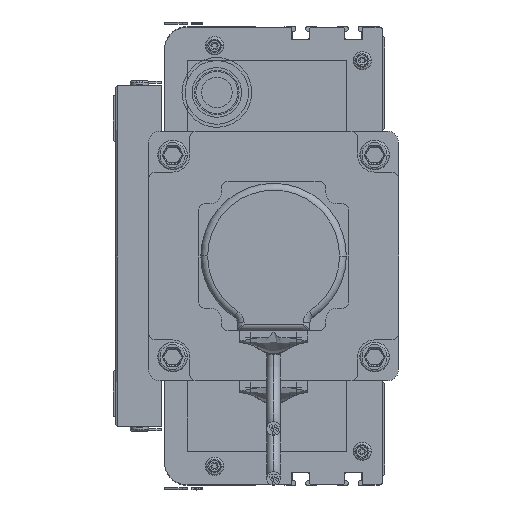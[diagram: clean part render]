
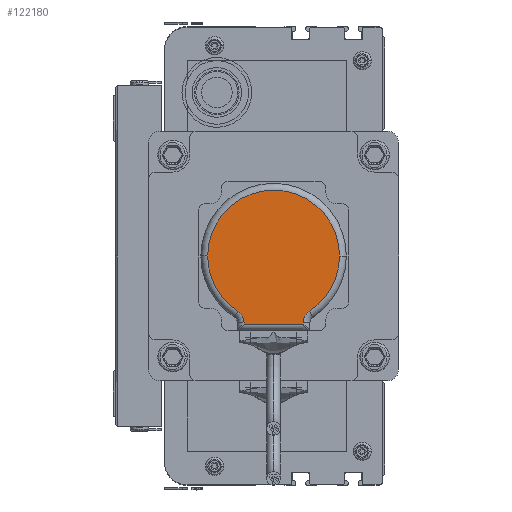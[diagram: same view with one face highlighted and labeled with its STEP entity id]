
A CAD part, left-side view. The second image highlights one B-rep face of the part: STEP entity #122180.
In plain terms, the highlighted planar face has unit normal (-1, 0, 0) as drawn and (0, 0, 1) by its records, which use the part's own axes.
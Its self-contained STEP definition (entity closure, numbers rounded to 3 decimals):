
#643 = VERTEX_POINT ( 'NONE', #3121 ) ;
#658 = EDGE_CURVE ( 'NONE', #832, #148664, #3113, .T. ) ;
#813 = EDGE_CURVE ( 'NONE', #148664, #643, #3307, .T. ) ;
#832 = VERTEX_POINT ( 'NONE', #3372 ) ;
#3113 = CIRCLE ( 'NONE', #3115, 29. ) ;
#3115 = AXIS2_PLACEMENT_3D ( 'NONE', #3186, #3184, #3182 ) ;
#3121 = CARTESIAN_POINT ( 'NONE',  ( 62., 33., 25. ) ) ;
#3182 = DIRECTION ( 'NONE',  ( 1., 0., 0. ) ) ;
#3184 = DIRECTION ( 'NONE',  ( 0., 0., 1. ) ) ;
#3186 = CARTESIAN_POINT ( 'NONE',  ( 33., 33., 25. ) ) ;
#3233 = CARTESIAN_POINT ( 'NONE',  ( 33., 33., 25. ) ) ;
#3307 = CIRCLE ( 'NONE', #3336, 29. ) ;
#3336 = AXIS2_PLACEMENT_3D ( 'NONE', #3233, #3389, #3388 ) ;
#3372 = CARTESIAN_POINT ( 'NONE',  ( 17.257, 57.355, 25. ) ) ;
#3388 = DIRECTION ( 'NONE',  ( 1., 0., 0. ) ) ;
#3389 = DIRECTION ( 'NONE',  ( 0., 0., 1. ) ) ;
#111902 = CARTESIAN_POINT ( 'NONE',  ( 4., 33., 25. ) ) ;
#121377 = DIRECTION ( 'NONE',  ( 0., 1., 0. ) ) ;
#121378 = VECTOR ( 'NONE', #121377, 1000. ) ;
#121379 = CARTESIAN_POINT ( 'NONE',  ( 46., 33., 25. ) ) ;
#121380 = LINE ( 'NONE', #121379, #121378 ) ;
#121421 = CIRCLE ( 'NONE', #121476, 29. ) ;
#121426 = CIRCLE ( 'NONE', #121481, 6. ) ;
#121428 = AXIS2_PLACEMENT_3D ( 'NONE', #121477, #121470, #121469 ) ;
#121432 = DIRECTION ( 'NONE',  ( 0., -1., 0. ) ) ;
#121433 = CARTESIAN_POINT ( 'NONE',  ( 20., 33., 25. ) ) ;
#121436 = CARTESIAN_POINT ( 'NONE',  ( 33., 33., 25. ) ) ;
#121439 = CIRCLE ( 'NONE', #121428, 6. ) ;
#121458 = CARTESIAN_POINT ( 'NONE',  ( 46., 62.394, 25. ) ) ;
#121459 = CARTESIAN_POINT ( 'NONE',  ( 48.743, 57.355, 25. ) ) ;
#121461 = PLANE ( 'NONE',  #121511 ) ;
#121462 = FACE_OUTER_BOUND ( 'NONE', #122190, .T. ) ;
#121467 = CARTESIAN_POINT ( 'NONE',  ( 20., 62.394, 25. ) ) ;
#121468 = VECTOR ( 'NONE', #121432, 1000. ) ;
#121469 = DIRECTION ( 'NONE',  ( 1., 0., 0. ) ) ;
#121470 = DIRECTION ( 'NONE',  ( 0., 0., 1. ) ) ;
#121471 = LINE ( 'NONE', #121433, #121468 ) ;
#121472 = CARTESIAN_POINT ( 'NONE',  ( 46., 63., 25. ) ) ;
#121474 = DIRECTION ( 'NONE',  ( 1., 0., 0. ) ) ;
#121475 = DIRECTION ( 'NONE',  ( 0., 0., 1. ) ) ;
#121476 = AXIS2_PLACEMENT_3D ( 'NONE', #121436, #121475, #121474 ) ;
#121477 = CARTESIAN_POINT ( 'NONE',  ( 14., 62.394, 25. ) ) ;
#121478 = DIRECTION ( 'NONE',  ( 1., 0., 0. ) ) ;
#121479 = DIRECTION ( 'NONE',  ( 0., 0., 1. ) ) ;
#121480 = CARTESIAN_POINT ( 'NONE',  ( 52., 62.394, 25. ) ) ;
#121481 = AXIS2_PLACEMENT_3D ( 'NONE', #121480, #121479, #121478 ) ;
#121485 = DIRECTION ( 'NONE',  ( -1., 0., 0. ) ) ;
#121486 = VECTOR ( 'NONE', #121485, 1000. ) ;
#121493 = LINE ( 'NONE', #121499, #121486 ) ;
#121499 = CARTESIAN_POINT ( 'NONE',  ( 17.5, 63., 25. ) ) ;
#121508 = DIRECTION ( 'NONE',  ( 1., 0., 0. ) ) ;
#121509 = DIRECTION ( 'NONE',  ( 0., 0., 1. ) ) ;
#121510 = CARTESIAN_POINT ( 'NONE',  ( 33., 33., 25. ) ) ;
#121511 = AXIS2_PLACEMENT_3D ( 'NONE', #121510, #121509, #121508 ) ;
#121512 = CARTESIAN_POINT ( 'NONE',  ( 20., 63., 25. ) ) ;
#121959 = EDGE_CURVE ( 'NONE', #122195, #122164, #121380, .T. ) ;
#121963 = ORIENTED_EDGE ( 'NONE', *, *, #121959, .T. ) ;
#121968 = ORIENTED_EDGE ( 'NONE', *, *, #122156, .F. ) ;
#122156 = EDGE_CURVE ( 'NONE', #122195, #122193, #121426, .T. ) ;
#122158 = EDGE_CURVE ( 'NONE', #643, #122193, #121421, .T. ) ;
#122160 = ORIENTED_EDGE ( 'NONE', *, *, #813, .T. ) ;
#122161 = ORIENTED_EDGE ( 'NONE', *, *, #122218, .T. ) ;
#122162 = EDGE_CURVE ( 'NONE', #832, #122187, #121439, .T. ) ;
#122164 = VERTEX_POINT ( 'NONE', #121472 ) ;
#122166 = ORIENTED_EDGE ( 'NONE', *, *, #122158, .T. ) ;
#122168 = ORIENTED_EDGE ( 'NONE', *, *, #658, .T. ) ;
#122170 = ORIENTED_EDGE ( 'NONE', *, *, #122162, .F. ) ;
#122171 = EDGE_CURVE ( 'NONE', #122191, #122187, #121471, .T. ) ;
#122180 = ADVANCED_FACE ( 'NONE', ( #121462 ), #121461, .T. ) ;
#122187 = VERTEX_POINT ( 'NONE', #121467 ) ;
#122190 = EDGE_LOOP ( 'NONE', ( #122170, #122168, #122160, #122166, #121968, #121963, #122161, #122200 ) ) ;
#122191 = VERTEX_POINT ( 'NONE', #121512 ) ;
#122193 = VERTEX_POINT ( 'NONE', #121459 ) ;
#122195 = VERTEX_POINT ( 'NONE', #121458 ) ;
#122200 = ORIENTED_EDGE ( 'NONE', *, *, #122171, .T. ) ;
#122218 = EDGE_CURVE ( 'NONE', #122164, #122191, #121493, .T. ) ;
#148664 = VERTEX_POINT ( 'NONE', #111902 ) ;
